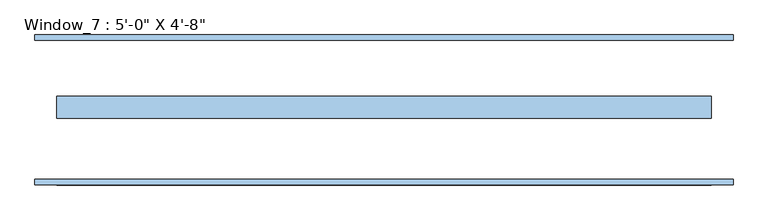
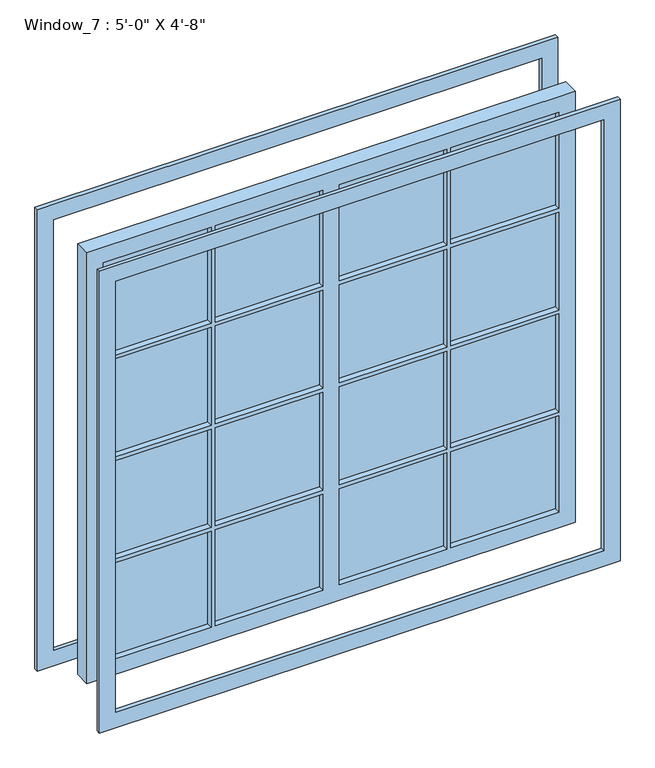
"""IFC4 building model written with IfcOpenShell, lengths in millimetres: window geometry."""

from ifc_helpers import new_model, si_unit, frame, origin, place, context, project, spatial, polyline, outline, extrude, source, transform, mapped, element, save


def window_30bd35c0(model_context):
    return source(origin(), model_context, "Body", "SweptSolid", [
        extrude(outline(polyline([(374.65, 0.0), (38.1, 0.0), (38.1, 12.7), (374.65, 12.7), (374.65, 0.0)])), frame((0.0, 0.0, 863.6), z_axis=(0.0, 0.0, 1.0), x_axis=(1.0, 0.0, 0.0)), (0.0, 0.0, 1.0), 317.5),
        extrude(outline(polyline([(-361.95, 0.0), (-698.5, 0.0), (-698.5, 12.7), (-361.95, 12.7), (-361.95, 0.0)])), frame((0.0, 0.0, 863.6), z_axis=(0.0, 0.0, 1.0), x_axis=(1.0, 0.0, 0.0)), (0.0, 0.0, 1.0), 317.5),
        extrude(outline(polyline([(723.9, 0.0), (387.35, 0.0), (387.35, 12.7), (723.9, 12.7), (723.9, 0.0)])), frame((0.0, 0.0, 1866.9), z_axis=(0.0, 0.0, 1.0), x_axis=(1.0, 0.0, 0.0)), (0.0, 0.0, 1.0), 317.5),
        extrude(outline(polyline([(723.9, 0.0), (387.35, 0.0), (387.35, 12.7), (723.9, 12.7), (723.9, 0.0)])), frame((0.0, 0.0, 1530.35), z_axis=(0.0, 0.0, 1.0), x_axis=(1.0, 0.0, 0.0)), (0.0, 0.0, 1.0), 323.85),
        extrude(outline(polyline([(723.9, 0.0), (387.35, 0.0), (387.35, 12.7), (723.9, 12.7), (723.9, 0.0)])), frame((0.0, 0.0, 1193.8), z_axis=(0.0, 0.0, 1.0), x_axis=(1.0, 0.0, 0.0)), (0.0, 0.0, 1.0), 323.85),
        extrude(outline(polyline([(723.9, 0.0), (387.35, 0.0), (387.35, 12.7), (723.9, 12.7), (723.9, 0.0)])), frame((0.0, 0.0, 863.6), z_axis=(0.0, 0.0, 1.0), x_axis=(1.0, 0.0, 0.0)), (0.0, 0.0, 1.0), 317.5),
        extrude(outline(polyline([(374.65, 0.0), (38.1, 0.0), (38.1, 12.7), (374.65, 12.7), (374.65, 0.0)])), frame((0.0, 0.0, 1193.8), z_axis=(0.0, 0.0, 1.0), x_axis=(1.0, 0.0, 0.0)), (0.0, 0.0, 1.0), 323.85),
        extrude(outline(polyline([(374.65, 0.0), (38.1, 0.0), (38.1, 12.7), (374.65, 12.7), (374.65, 0.0)])), frame((0.0, 0.0, 1530.35), z_axis=(0.0, 0.0, 1.0), x_axis=(1.0, 0.0, 0.0)), (0.0, 0.0, 1.0), 323.85),
        extrude(outline(polyline([(374.65, 0.0), (38.1, 0.0), (38.1, 12.7), (374.65, 12.7), (374.65, 0.0)])), frame((0.0, 0.0, 1866.9), z_axis=(0.0, 0.0, 1.0), x_axis=(1.0, 0.0, 0.0)), (0.0, 0.0, 1.0), 317.5),
        extrude(outline(polyline([(-12.7, 0.0), (-349.25, 0.0), (-349.25, 12.7), (-12.7, 12.7), (-12.7, 0.0)])), frame((0.0, 0.0, 1866.9), z_axis=(0.0, 0.0, 1.0), x_axis=(1.0, 0.0, 0.0)), (0.0, 0.0, 1.0), 317.5),
        extrude(outline(polyline([(-12.7, 0.0), (-349.25, 0.0), (-349.25, 12.7), (-12.7, 12.7), (-12.7, 0.0)])), frame((0.0, 0.0, 1530.35), z_axis=(0.0, 0.0, 1.0), x_axis=(1.0, 0.0, 0.0)), (0.0, 0.0, 1.0), 323.85),
        extrude(outline(polyline([(-12.7, 0.0), (-349.25, 0.0), (-349.25, 12.7), (-12.7, 12.7), (-12.7, 0.0)])), frame((0.0, 0.0, 1193.8), z_axis=(0.0, 0.0, 1.0), x_axis=(1.0, 0.0, 0.0)), (0.0, 0.0, 1.0), 323.85),
        extrude(outline(polyline([(-12.7, 0.0), (-349.25, 0.0), (-349.25, 12.7), (-12.7, 12.7), (-12.7, 0.0)])), frame((0.0, 0.0, 863.6), z_axis=(0.0, 0.0, 1.0), x_axis=(1.0, 0.0, 0.0)), (0.0, 0.0, 1.0), 317.5),
        extrude(outline(polyline([(-361.95, 0.0), (-698.5, 0.0), (-698.5, 12.7), (-361.95, 12.7), (-361.95, 0.0)])), frame((0.0, 0.0, 1193.8), z_axis=(0.0, 0.0, 1.0), x_axis=(1.0, 0.0, 0.0)), (0.0, 0.0, 1.0), 323.85),
        extrude(outline(polyline([(-361.95, 0.0), (-698.5, 0.0), (-698.5, 12.7), (-361.95, 12.7), (-361.95, 0.0)])), frame((0.0, 0.0, 1530.35), z_axis=(0.0, 0.0, 1.0), x_axis=(1.0, 0.0, 0.0)), (0.0, 0.0, 1.0), 323.85),
        extrude(outline(polyline([(-361.95, 0.0), (-698.5, 0.0), (-698.5, 12.7), (-361.95, 12.7), (-361.95, 0.0)])), frame((0.0, 0.0, 1866.9), z_axis=(0.0, 0.0, 1.0), x_axis=(1.0, 0.0, 0.0)), (0.0, 0.0, 1.0), 317.5),
        extrude(outline(polyline([(2235.2, -749.3), (812.8, -749.3), (812.8, 774.7), (2235.2, 774.7), (2235.2, -749.3)]), holes=[polyline([(863.6, 387.35), (1181.1, 387.35), (1181.1, 723.9), (863.6, 723.9), (863.6, 387.35)]), polyline([(1181.1, 374.65), (863.6, 374.65), (863.6, 38.1), (1181.1, 38.1), (1181.1, 374.65)]), polyline([(863.6, -349.25), (1181.1, -349.25), (1181.1, -12.7), (863.6, -12.7), (863.6, -349.25)]), polyline([(1181.1, -361.95), (863.6, -361.95), (863.6, -698.5), (1181.1, -698.5), (1181.1, -361.95)]), polyline([(2184.4, 387.35), (2184.4, 723.9), (1866.9, 723.9), (1866.9, 387.35), (2184.4, 387.35)]), polyline([(1866.9, 38.1), (2184.4, 38.1), (2184.4, 374.65), (1866.9, 374.65), (1866.9, 38.1)]), polyline([(1530.35, 387.35), (1854.2, 387.35), (1854.2, 723.9), (1530.35, 723.9), (1530.35, 387.35)]), polyline([(1193.8, 387.35), (1517.65, 387.35), (1517.65, 723.9), (1193.8, 723.9), (1193.8, 387.35)]), polyline([(1193.8, 38.1), (1517.65, 38.1), (1517.65, 374.65), (1193.8, 374.65), (1193.8, 38.1)]), polyline([(1530.35, 38.1), (1854.2, 38.1), (1854.2, 374.65), (1530.35, 374.65), (1530.35, 38.1)]), polyline([(2184.4, -349.25), (2184.4, -12.7), (1866.9, -12.7), (1866.9, -349.25), (2184.4, -349.25)]), polyline([(1866.9, -698.5), (2184.4, -698.5), (2184.4, -361.95), (1866.9, -361.95), (1866.9, -698.5)]), polyline([(1530.35, -349.25), (1854.2, -349.25), (1854.2, -12.7), (1530.35, -12.7), (1530.35, -349.25)]), polyline([(1193.8, -349.25), (1517.65, -349.25), (1517.65, -12.7), (1193.8, -12.7), (1193.8, -349.25)]), polyline([(1193.8, -698.5), (1517.65, -698.5), (1517.65, -361.95), (1193.8, -361.95), (1193.8, -698.5)]), polyline([(1530.35, -698.5), (1854.2, -698.5), (1854.2, -361.95), (1530.35, -361.95), (1530.35, -698.5)])]), frame((0.0, -19.05, 0.0), z_axis=(0.0, 1.0, 0.0), x_axis=(0.0, 0.0, 1.0)), (0.0, 0.0, 1.0), 50.8),
        extrude(outline(polyline([(2286.0, -800.1), (762.0, -800.1), (762.0, 825.5), (2286.0, 825.5), (2286.0, -800.1)]), holes=[polyline([(2235.2, -749.3), (2235.2, 774.7), (812.8, 774.7), (812.8, -749.3), (2235.2, -749.3)])]), frame((0.0, 161.925, 0.0), z_axis=(0.0, 1.0, 0.0), x_axis=(0.0, 0.0, 1.0)), (0.0, 0.0, 1.0), 12.7),
        extrude(outline(polyline([(2286.0, -800.1), (762.0, -800.1), (762.0, 825.5), (2286.0, 825.5), (2286.0, -800.1)]), holes=[polyline([(812.8, 774.7), (812.8, -749.3), (2235.2, -749.3), (2235.2, 774.7), (812.8, 774.7)])]), frame((0.0, -174.625, 0.0), z_axis=(0.0, 1.0, 0.0), x_axis=(0.0, 0.0, 1.0)), (0.0, 0.0, 1.0), 12.7),
    ])


if __name__ == "__main__":
    model = new_model("IFC4")
    model_context = context("Model", 3, world=origin())
    ifc_project = project(units=[si_unit("LENGTHUNIT", "METRE", prefix="MILLI")], contexts=[model_context])
    site = spatial("IfcSite", under=ifc_project)
    building = spatial("IfcBuilding", under=site)
    placement = place(None, origin())
    window_shape = window_30bd35c0(model_context)
    element("IfcWindow", 1, ObjectType="Window_7 : 5'-0\" X 4'-8\"", at=placement, inside=building, context=model_context, shape_type="MappedRepresentation", body=[
        mapped(window_shape, transform((0.0, 0.0, 0.0), x_axis=(1.0, 0.0, 0.0), y_axis=(0.0, 1.0, 0.0), z_axis=(0.0, 0.0, 1.0))),
    ])
    save(model, "model.ifc")
